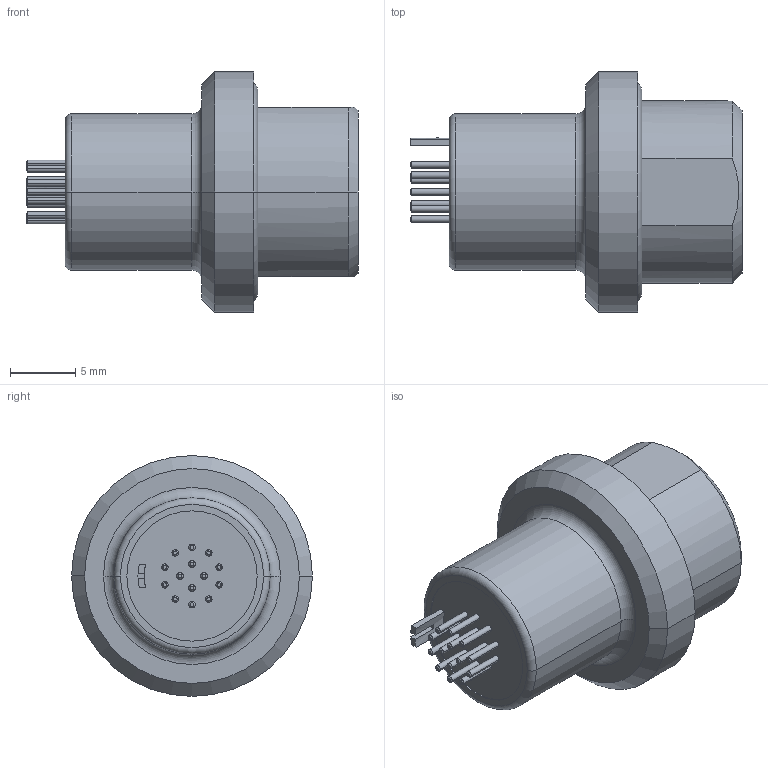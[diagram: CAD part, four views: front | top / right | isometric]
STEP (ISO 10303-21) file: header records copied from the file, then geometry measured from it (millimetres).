
FILE_DESCRIPTION((''),'2;1');
FILE_NAME('G81Y_R-P14UC00-000L_WITHOUT_HEX','2020-10-22T07:55:41',('EUnterhaslberger'),(''),'CREO PARAMETRIC BY PTC INC, 2018300','CREO PARAMETRIC BY PTC INC, 2018300','');
FILE_SCHEMA(('AP242_MANAGED_MODEL_BASED_3D_ENGINEERING_MIM_LF { 1 0 10303 442 1 1 4 }'));
Length unit declared in the file: millimetre
Products named in the file (1): G81Y_R-P14UC00-000L_WITHOUT_HEX
Bounding box: 25.5 x 18.5 x 18.5 mm (x, y, z)
Volume: 2884.9 mm3; surface area: 2574.4 mm2
Topology: 2 solids, 2 shells, 236 faces, 546 edges, 351 vertices
Faces by surface type: plane 71, cone 69, cylinder 67, torus 28, sphere 1
Entity records: 8588 total; most frequent: CARTESIAN_POINT 1335, DIRECTION 1276, ORIENTED_EDGE 1092, EDGE_CURVE 546, AXIS2_PLACEMENT_3D 530, VERTEX_POINT 351, CIRCLE 294, EDGE_LOOP 275
